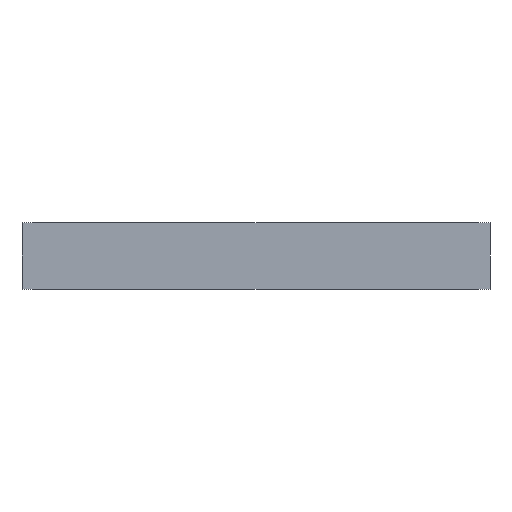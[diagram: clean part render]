
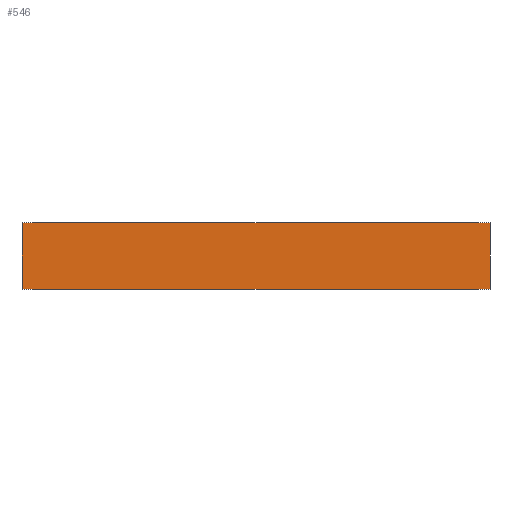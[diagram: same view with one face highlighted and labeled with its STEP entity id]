
A CAD part, front view. The second image highlights one B-rep face of the part: STEP entity #546.
In plain terms, the highlighted planar face has unit normal (0, -1, 0).
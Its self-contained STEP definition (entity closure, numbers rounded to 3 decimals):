
#44 = PLANE('',#45);
#45 = AXIS2_PLACEMENT_3D('',#46,#47,#48);
#46 = CARTESIAN_POINT('',(0.,0.,-1.66));
#47 = DIRECTION('',(0.,0.,1.));
#48 = DIRECTION('',(1.,0.,-0.));
#72 = PLANE('',#73);
#73 = AXIS2_PLACEMENT_3D('',#74,#75,#76);
#74 = CARTESIAN_POINT('',(-5.8,-20.59,-2.84));
#75 = DIRECTION('',(-1.,0.,0.));
#76 = DIRECTION('',(0.,1.,0.));
#100 = PLANE('',#101);
#101 = AXIS2_PLACEMENT_3D('',#102,#103,#104);
#102 = CARTESIAN_POINT('',(0.,0.,0.));
#103 = DIRECTION('',(-0.,-0.,-1.));
#104 = DIRECTION('',(-1.,0.,0.));
#126 = PLANE('',#127);
#127 = AXIS2_PLACEMENT_3D('',#128,#129,#130);
#128 = CARTESIAN_POINT('',(5.8,20.59,-2.84));
#129 = DIRECTION('',(1.,0.,-0.));
#130 = DIRECTION('',(0.,-1.,0.));
#141 = EDGE_CURVE('',#142,#144,#146,.T.);
#142 = VERTEX_POINT('',#143);
#143 = CARTESIAN_POINT('',(-5.8,-20.59,-1.66));
#144 = VERTEX_POINT('',#145);
#145 = CARTESIAN_POINT('',(5.8,-20.59,-1.66));
#146 = SURFACE_CURVE('',#147,(#151,#158),.PCURVE_S1.);
#147 = LINE('',#148,#149);
#148 = CARTESIAN_POINT('',(-5.8,-20.59,-1.66));
#149 = VECTOR('',#150,1.);
#150 = DIRECTION('',(1.,0.,0.));
#151 = PCURVE('',#44,#152);
#152 = DEFINITIONAL_REPRESENTATION('',(#153),#157);
#153 = LINE('',#154,#155);
#154 = CARTESIAN_POINT('',(-5.8,-20.59));
#155 = VECTOR('',#156,1.);
#156 = DIRECTION('',(1.,0.));
#157 = ( GEOMETRIC_REPRESENTATION_CONTEXT(2) 
PARAMETRIC_REPRESENTATION_CONTEXT() REPRESENTATION_CONTEXT('2D SPACE',''
  ) );
#158 = PCURVE('',#159,#164);
#159 = PLANE('',#160);
#160 = AXIS2_PLACEMENT_3D('',#161,#162,#163);
#161 = CARTESIAN_POINT('',(5.8,-20.59,-2.84));
#162 = DIRECTION('',(0.,-1.,0.));
#163 = DIRECTION('',(-1.,0.,0.));
#164 = DEFINITIONAL_REPRESENTATION('',(#165),#169);
#165 = LINE('',#166,#167);
#166 = CARTESIAN_POINT('',(11.6,-1.18));
#167 = VECTOR('',#168,1.);
#168 = DIRECTION('',(-1.,-0.));
#169 = ( GEOMETRIC_REPRESENTATION_CONTEXT(2) 
PARAMETRIC_REPRESENTATION_CONTEXT() REPRESENTATION_CONTEXT('2D SPACE',''
  ) );
#334 = VERTEX_POINT('',#335);
#335 = CARTESIAN_POINT('',(5.8,-20.59,0.));
#356 = EDGE_CURVE('',#144,#334,#357,.T.);
#357 = SURFACE_CURVE('',#358,(#362,#369),.PCURVE_S1.);
#358 = LINE('',#359,#360);
#359 = CARTESIAN_POINT('',(5.8,-20.59,-2.84));
#360 = VECTOR('',#361,1.);
#361 = DIRECTION('',(0.,0.,1.));
#362 = PCURVE('',#126,#363);
#363 = DEFINITIONAL_REPRESENTATION('',(#364),#368);
#364 = LINE('',#365,#366);
#365 = CARTESIAN_POINT('',(41.18,0.));
#366 = VECTOR('',#367,1.);
#367 = DIRECTION('',(0.,-1.));
#368 = ( GEOMETRIC_REPRESENTATION_CONTEXT(2) 
PARAMETRIC_REPRESENTATION_CONTEXT() REPRESENTATION_CONTEXT('2D SPACE',''
  ) );
#369 = PCURVE('',#159,#370);
#370 = DEFINITIONAL_REPRESENTATION('',(#371),#375);
#371 = LINE('',#372,#373);
#372 = CARTESIAN_POINT('',(0.,-0.));
#373 = VECTOR('',#374,1.);
#374 = DIRECTION('',(0.,-1.));
#375 = ( GEOMETRIC_REPRESENTATION_CONTEXT(2) 
PARAMETRIC_REPRESENTATION_CONTEXT() REPRESENTATION_CONTEXT('2D SPACE',''
  ) );
#382 = EDGE_CURVE('',#334,#383,#385,.T.);
#383 = VERTEX_POINT('',#384);
#384 = CARTESIAN_POINT('',(-5.8,-20.59,0.));
#385 = SURFACE_CURVE('',#386,(#390,#397),.PCURVE_S1.);
#386 = LINE('',#387,#388);
#387 = CARTESIAN_POINT('',(5.8,-20.59,0.));
#388 = VECTOR('',#389,1.);
#389 = DIRECTION('',(-1.,0.,0.));
#390 = PCURVE('',#100,#391);
#391 = DEFINITIONAL_REPRESENTATION('',(#392),#396);
#392 = LINE('',#393,#394);
#393 = CARTESIAN_POINT('',(-5.8,-20.59));
#394 = VECTOR('',#395,1.);
#395 = DIRECTION('',(1.,0.));
#396 = ( GEOMETRIC_REPRESENTATION_CONTEXT(2) 
PARAMETRIC_REPRESENTATION_CONTEXT() REPRESENTATION_CONTEXT('2D SPACE',''
  ) );
#397 = PCURVE('',#159,#398);
#398 = DEFINITIONAL_REPRESENTATION('',(#399),#403);
#399 = LINE('',#400,#401);
#400 = CARTESIAN_POINT('',(0.,-2.84));
#401 = VECTOR('',#402,1.);
#402 = DIRECTION('',(1.,0.));
#403 = ( GEOMETRIC_REPRESENTATION_CONTEXT(2) 
PARAMETRIC_REPRESENTATION_CONTEXT() REPRESENTATION_CONTEXT('2D SPACE',''
  ) );
#524 = EDGE_CURVE('',#142,#383,#525,.T.);
#525 = SURFACE_CURVE('',#526,(#530,#537),.PCURVE_S1.);
#526 = LINE('',#527,#528);
#527 = CARTESIAN_POINT('',(-5.8,-20.59,-2.84));
#528 = VECTOR('',#529,1.);
#529 = DIRECTION('',(0.,0.,1.));
#530 = PCURVE('',#72,#531);
#531 = DEFINITIONAL_REPRESENTATION('',(#532),#536);
#532 = LINE('',#533,#534);
#533 = CARTESIAN_POINT('',(0.,0.));
#534 = VECTOR('',#535,1.);
#535 = DIRECTION('',(0.,-1.));
#536 = ( GEOMETRIC_REPRESENTATION_CONTEXT(2) 
PARAMETRIC_REPRESENTATION_CONTEXT() REPRESENTATION_CONTEXT('2D SPACE',''
  ) );
#537 = PCURVE('',#159,#538);
#538 = DEFINITIONAL_REPRESENTATION('',(#539),#543);
#539 = LINE('',#540,#541);
#540 = CARTESIAN_POINT('',(11.6,0.));
#541 = VECTOR('',#542,1.);
#542 = DIRECTION('',(0.,-1.));
#543 = ( GEOMETRIC_REPRESENTATION_CONTEXT(2) 
PARAMETRIC_REPRESENTATION_CONTEXT() REPRESENTATION_CONTEXT('2D SPACE',''
  ) );
#546 = ADVANCED_FACE('',(#547),#159,.T.);
#547 = FACE_BOUND('',#548,.T.);
#548 = EDGE_LOOP('',(#549,#550,#551,#552));
#549 = ORIENTED_EDGE('',*,*,#141,.T.);
#550 = ORIENTED_EDGE('',*,*,#356,.T.);
#551 = ORIENTED_EDGE('',*,*,#382,.T.);
#552 = ORIENTED_EDGE('',*,*,#524,.F.);
